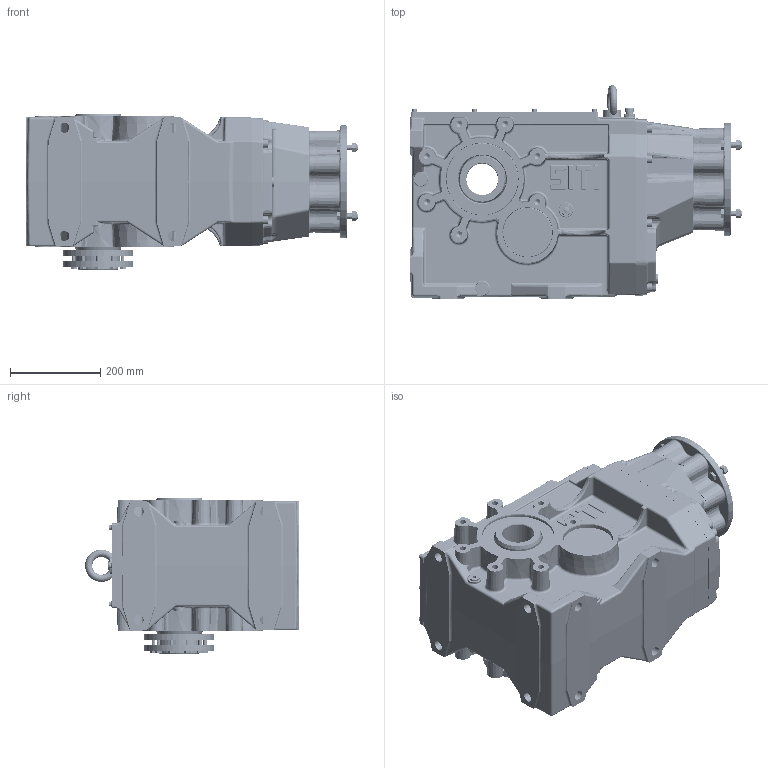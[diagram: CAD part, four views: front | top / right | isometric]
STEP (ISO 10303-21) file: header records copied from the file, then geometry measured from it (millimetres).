
FILE_DESCRIPTION((''),'2;1');
FILE_NAME('C:\Users\m.piscopiello.SITIRIDUTTORI\Desktop\3D x SITO\MBHGC 140 PAM 100-112\MBHGC_140 CC-A GR 100-112 B5.stp','2013-05-28T11:39:23',('m.piscopiello'),(''),'Autodesk Inventor 2012','Autodesk Inventor 2012','');
FILE_SCHEMA(('CONFIG_CONTROL_DESIGN'));
Length unit declared in the file: millimetre
Products named in the file (1): MBHGC_140 CC-A GR 100-112 B5
Bounding box: 736 x 474 x 345 mm (x, y, z)
Volume: 19152374.4 mm3; surface area: 2979347.3 mm2
Topology: 61 solids, 63 shells, 4586 faces, 10843 edges, 6448 vertices
Faces by surface type: plane 1294, cylinder 1258, bspline 908, cone 509, torus 467, sphere 150
Full cylindrical faces by diameter (mm): 2 x2, 3.15 x2, 3.5 x2, 4.917 x10, 6 x20, 6.4 x10, 6.647 x1, 7 x10, 8 x11, 9 x20, 10 x10, 10.106 x8, 11.63 x10, 12 x46, 12.5 x12, 13 x16, 13.835 x14, 14 x4, 14.95 x2, 16 x1, 16.6 x6, 17.294 x3, 18 x16, 19.5 x1, 20.5 x16, 22 x9, 25 x1, 26 x1, 30 x3, 40 x1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
Entity records: 178117 total; most frequent: CARTESIAN_POINT 76307, ORIENTED_EDGE 19824, DIRECTION 19660, EDGE_CURVE 9912, AXIS2_PLACEMENT_3D 8317, VERTEX_POINT 6225, EDGE_LOOP 5512, STYLED_ITEM 4645
